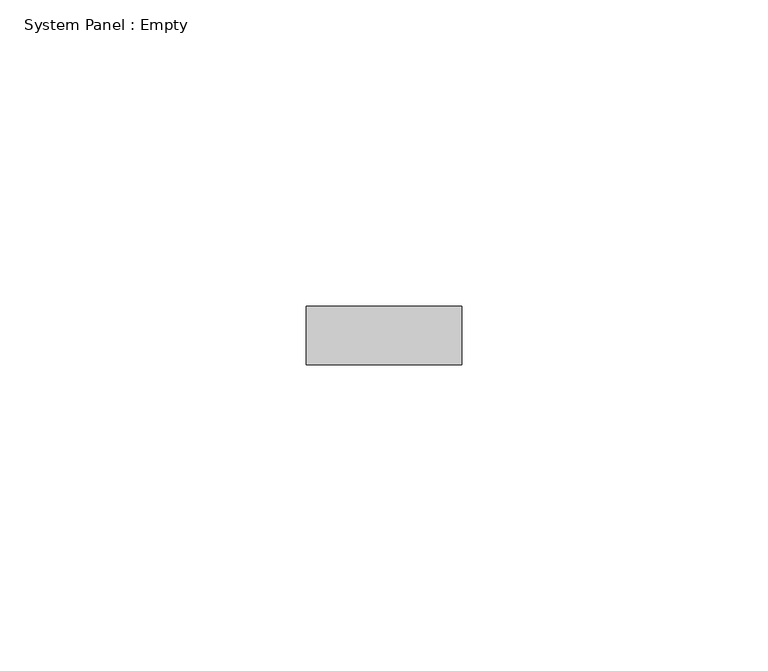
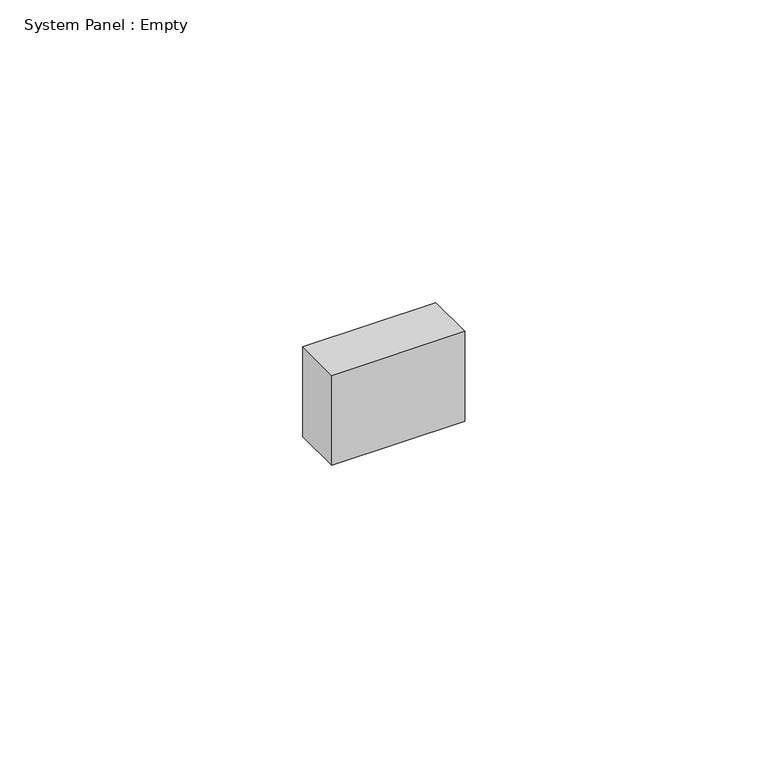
"""IFC4 building model written with IfcOpenShell, lengths in millimetres: plate geometry, System Panel : Empty."""

from ifc_helpers import new_model, si_unit, origin, origin_with_axes, place, context, project, spatial, polyline, outline, extrude, source, transform, mapped, element, save


def system_panel_empty_946fc833(model_context):
    return source(origin(), model_context, "Body", "SweptSolid", [
        extrude(outline(polyline([(12.6999998, -4.7625), (-12.6999998, -4.7625), (-12.6999998, 4.7625), (12.6999998, 4.7625), (12.6999998, -4.7625)])), origin_with_axes(), (0.0, 0.0, 1.0), 18.0737918),
    ])


if __name__ == "__main__":
    model = new_model("IFC4")
    model_context = context("Model", 3, world=origin())
    ifc_project = project(units=[si_unit("LENGTHUNIT", "METRE", prefix="MILLI")], contexts=[model_context])
    site = spatial("IfcSite", under=ifc_project)
    building = spatial("IfcBuilding", under=site)
    placement = place(None, origin())
    system_panel_empty_shape = system_panel_empty_946fc833(model_context)
    element("IfcPlate", 1, ObjectType="System Panel : Empty", at=placement, inside=building, context=model_context, shape_type="MappedRepresentation", body=[
        mapped(system_panel_empty_shape, transform((0.0, 0.0, 0.0), x_axis=(1.0, 0.0, 0.0), y_axis=(0.0, 1.0, 0.0), z_axis=(0.0, 0.0, 1.0))),
    ])
    save(model, "model.ifc")
